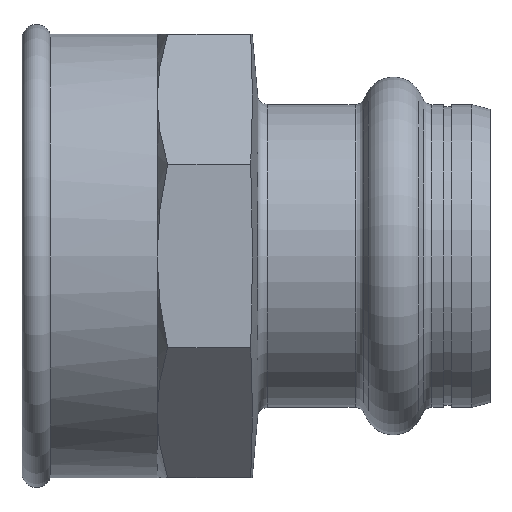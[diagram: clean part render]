
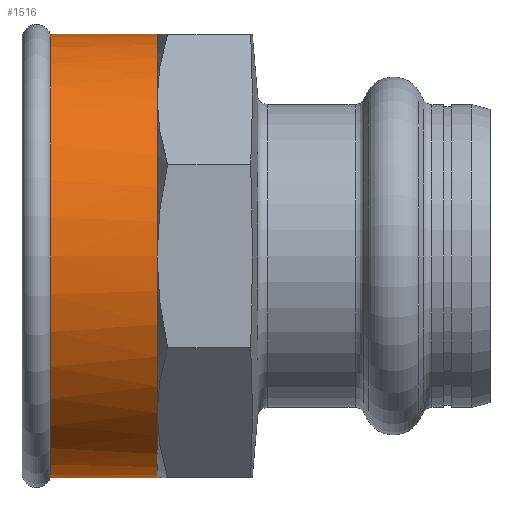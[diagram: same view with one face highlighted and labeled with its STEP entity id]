
A CAD part, left-side view. The second image highlights one B-rep face of the part: STEP entity #1516.
In plain terms, the highlighted cylindrical face has radius 23 mm (diameter 46 mm), a partial arc.
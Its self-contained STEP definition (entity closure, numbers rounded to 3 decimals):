
#2 = DIRECTION ( 'NONE',  ( 0., 0., -1. ) ) ;
#39 = VERTEX_POINT ( 'NONE', #1727 ) ;
#46 = CARTESIAN_POINT ( 'NONE',  ( 0., 34.5, 23. ) ) ;
#106 = ORIENTED_EDGE ( 'NONE', *, *, #1373, .T. ) ;
#108 = DIRECTION ( 'NONE',  ( 0., -1., 0. ) ) ;
#113 = ORIENTED_EDGE ( 'NONE', *, *, #1134, .F. ) ;
#156 = EDGE_CURVE ( 'NONE', #614, #1159, #1739, .T. ) ;
#164 = DIRECTION ( 'NONE',  ( 0., 0., -1. ) ) ;
#234 = CARTESIAN_POINT ( 'NONE',  ( -16.263, 34.5, -16.263 ) ) ;
#311 = AXIS2_PLACEMENT_3D ( 'NONE', #1869, #1874, #1886 ) ;
#318 = AXIS2_PLACEMENT_3D ( 'NONE', #1835, #607, #1897 ) ;
#328 = DIRECTION ( 'NONE',  ( 0., -1., 0. ) ) ;
#364 = CARTESIAN_POINT ( 'NONE',  ( 0., -17.811, 0. ) ) ;
#365 = LINE ( 'NONE', #697, #1948 ) ;
#406 = DIRECTION ( 'NONE',  ( 0., 0., -1. ) ) ;
#459 = VERTEX_POINT ( 'NONE', #46 ) ;
#470 = ORIENTED_EDGE ( 'NONE', *, *, #1994, .F. ) ;
#515 = CYLINDRICAL_SURFACE ( 'NONE', #616, 23. ) ;
#607 = DIRECTION ( 'NONE',  ( 0., -1., 0. ) ) ;
#614 = VERTEX_POINT ( 'NONE', #234 ) ;
#616 = AXIS2_PLACEMENT_3D ( 'NONE', #364, #1045, #406 ) ;
#628 = VECTOR ( 'NONE', #918, 1000. ) ;
#697 = CARTESIAN_POINT ( 'NONE',  ( 0., -17.811, -23. ) ) ;
#806 = AXIS2_PLACEMENT_3D ( 'NONE', #1939, #923, #2 ) ;
#856 = EDGE_CURVE ( 'NONE', #1559, #39, #1260, .T. ) ;
#896 = CARTESIAN_POINT ( 'NONE',  ( 0., -17.811, 23. ) ) ;
#918 = DIRECTION ( 'NONE',  ( 0., -1., 0. ) ) ;
#923 = DIRECTION ( 'NONE',  ( 0., -1., 0. ) ) ;
#964 = CARTESIAN_POINT ( 'NONE',  ( 0., 45.586, -23. ) ) ;
#1012 = FACE_OUTER_BOUND ( 'NONE', #1331, .T. ) ;
#1045 = DIRECTION ( 'NONE',  ( 0., -1., 0. ) ) ;
#1052 = VERTEX_POINT ( 'NONE', #1259 ) ;
#1090 = AXIS2_PLACEMENT_3D ( 'NONE', #1295, #328, #1583 ) ;
#1112 = EDGE_CURVE ( 'NONE', #1427, #1159, #365, .T. ) ;
#1134 = EDGE_CURVE ( 'NONE', #459, #1559, #1719, .T. ) ;
#1139 = ORIENTED_EDGE ( 'NONE', *, *, #1112, .T. ) ;
#1159 = VERTEX_POINT ( 'NONE', #1622 ) ;
#1162 = DIRECTION ( 'NONE',  ( 0., -1., 0. ) ) ;
#1249 = CARTESIAN_POINT ( 'NONE',  ( -16.263, 34.5, 16.263 ) ) ;
#1255 = CIRCLE ( 'NONE', #1090, 23. ) ;
#1259 = CARTESIAN_POINT ( 'NONE',  ( 0., 45.586, 23. ) ) ;
#1260 = CIRCLE ( 'NONE', #1833, 23. ) ;
#1295 = CARTESIAN_POINT ( 'NONE',  ( 0., 45.586, 0. ) ) ;
#1323 = EDGE_CURVE ( 'NONE', #39, #614, #1434, .T. ) ;
#1331 = EDGE_LOOP ( 'NONE', ( #470, #106, #1139, #1491, #1598, #1700, #113 ) ) ;
#1373 = EDGE_CURVE ( 'NONE', #1052, #1427, #1255, .T. ) ;
#1427 = VERTEX_POINT ( 'NONE', #964 ) ;
#1434 = CIRCLE ( 'NONE', #318, 23. ) ;
#1491 = ORIENTED_EDGE ( 'NONE', *, *, #156, .F. ) ;
#1516 = ADVANCED_FACE ( 'NONE', ( #1012 ), #515, .T. ) ;
#1524 = CARTESIAN_POINT ( 'NONE',  ( 0., 34.5, 0. ) ) ;
#1559 = VERTEX_POINT ( 'NONE', #1249 ) ;
#1583 = DIRECTION ( 'NONE',  ( 0., 0., -1. ) ) ;
#1598 = ORIENTED_EDGE ( 'NONE', *, *, #1323, .F. ) ;
#1622 = CARTESIAN_POINT ( 'NONE',  ( 0., 34.5, -23. ) ) ;
#1700 = ORIENTED_EDGE ( 'NONE', *, *, #856, .F. ) ;
#1719 = CIRCLE ( 'NONE', #311, 23. ) ;
#1727 = CARTESIAN_POINT ( 'NONE',  ( -23., 34.5, 0. ) ) ;
#1739 = CIRCLE ( 'NONE', #806, 23. ) ;
#1833 = AXIS2_PLACEMENT_3D ( 'NONE', #1524, #108, #164 ) ;
#1835 = CARTESIAN_POINT ( 'NONE',  ( 0., 34.5, 0. ) ) ;
#1836 = LINE ( 'NONE', #896, #628 ) ;
#1869 = CARTESIAN_POINT ( 'NONE',  ( 0., 34.5, 0. ) ) ;
#1874 = DIRECTION ( 'NONE',  ( 0., -1., 0. ) ) ;
#1886 = DIRECTION ( 'NONE',  ( 0., 0., -1. ) ) ;
#1897 = DIRECTION ( 'NONE',  ( 0., 0., -1. ) ) ;
#1939 = CARTESIAN_POINT ( 'NONE',  ( 0., 34.5, 0. ) ) ;
#1948 = VECTOR ( 'NONE', #1162, 1000. ) ;
#1994 = EDGE_CURVE ( 'NONE', #1052, #459, #1836, .T. ) ;
